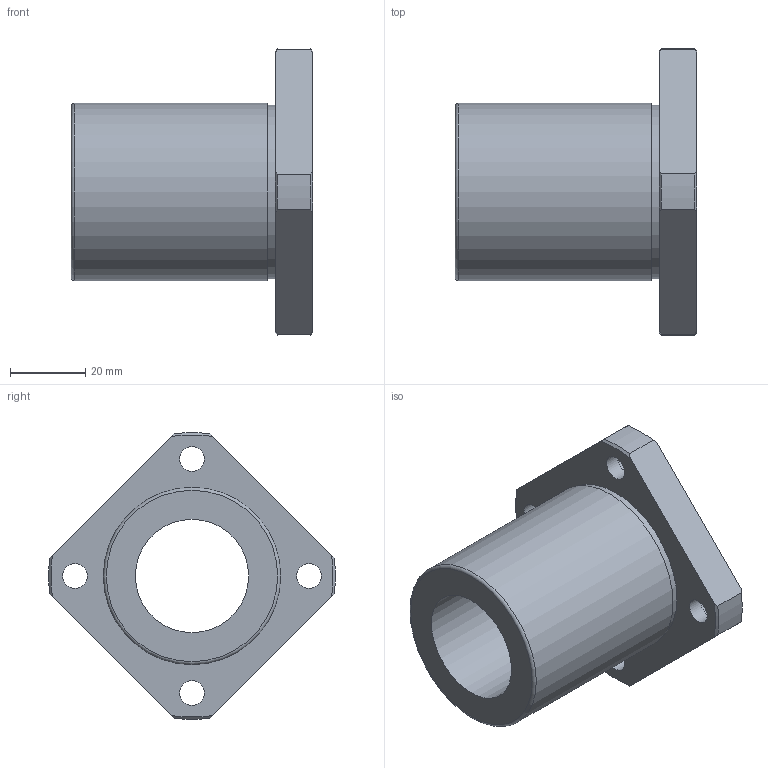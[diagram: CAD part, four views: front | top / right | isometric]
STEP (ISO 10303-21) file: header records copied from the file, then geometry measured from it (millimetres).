
FILE_DESCRIPTION(('STEP AP203'),'1');
FILE_NAME('//192.168.1.1/share/s-4 技術開発/s-4-4_CAD/s-4-4-3_見直し済み/002 修正済み/NF-V/NF-30VUU.step','2022-03-08T06:40:48',(' '),(' '),'Spatial InterOp 3D',' ',' ');
FILE_SCHEMA(('CONFIG_CONTROL_DESIGN'));
Length unit declared in the file: millimetre
Products named in the file (1): 1
Bounding box: 64 x 75.93 x 75.93 mm (x, y, z)
Volume: 80597.8 mm3; surface area: 22824.4 mm2
Topology: 1 solids, 1 shells, 36 faces, 86 edges, 58 vertices
Faces by surface type: cylinder 15, plane 12, cone 8, torus 1
Full cylindrical faces by diameter (mm): 6.6 x4, 11 x4, 30 x1, 46 x1, 47 x1
Entity records: 1026 total; most frequent: CARTESIAN_POINT 195, DIRECTION 168, ORIENTED_EDGE 142, AXIS2_PLACEMENT_3D 76, EDGE_CURVE 71, EDGE_LOOP 64, VERTEX_POINT 55, FACE_OUTER_BOUND 48
